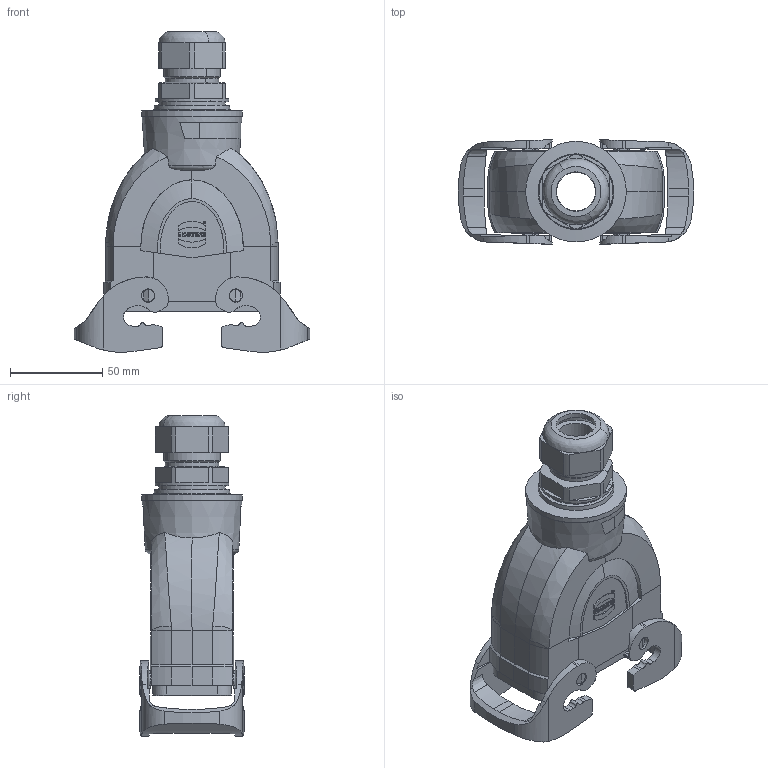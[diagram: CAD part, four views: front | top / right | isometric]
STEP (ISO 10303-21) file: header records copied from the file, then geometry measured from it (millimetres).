
FILE_DESCRIPTION(/* description */ (''),/* implementation_level */ '2;1');
FILE_NAME(/* name */ '100779422ugm000_d.stp',/* time_stamp */ '2022-07-06T14:45:56+02:00',/* author */ (''),/* organization */ (''),/* preprocessor_version */ 'ST-DEVELOPER v16.7',/* originating_system */ 'SIEMENS PLM Software NX 1911',/* authorisation */ '');
FILE_SCHEMA (('AUTOMOTIVE_DESIGN { 1 0 10303 214 3 1 1 1 }'));
Length unit declared in the file: millimetre
Products named in the file (1): 100779422ugm000_d
Bounding box: 127.17 x 56.57 x 173.49 mm (x, y, z)
Volume: 175468.7 mm3; surface area: 82048.6 mm2
Topology: 3 solids, 3 shells, 775 faces, 2123 edges, 1400 vertices
Faces by surface type: plane 481, cylinder 171, bspline 48, cone 41, extrusion 18, revolution 10, torus 6
Full cylindrical faces by diameter (mm): 1.006 x2, 1.477 x2, 3 x4, 3.5 x4, 7.2 x4, 32 x1, 36 x1, 38 x1, 54.4 x1
Entity records: 29810 total; most frequent: CARTESIAN_POINT 8676, ORIENTED_EDGE 4144, DIRECTION 3736, EDGE_CURVE 2072, VERTEX_POINT 1373, VECTOR 1310, LINE 1292, AXIS2_PLACEMENT_3D 1208
